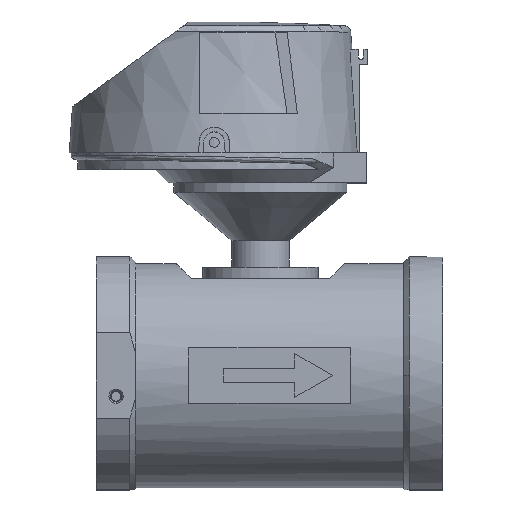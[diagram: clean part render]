
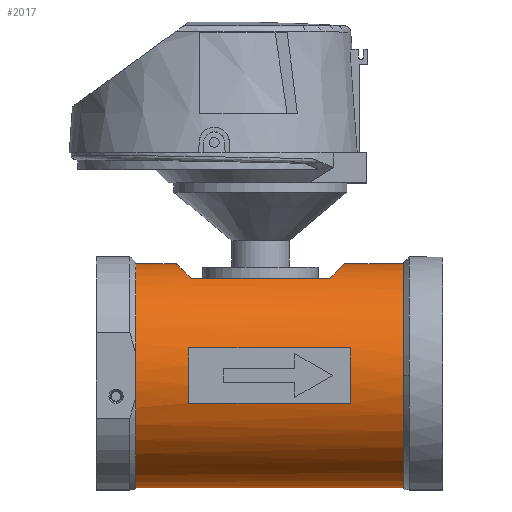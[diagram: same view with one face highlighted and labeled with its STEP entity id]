
A CAD part, top view. The second image highlights one B-rep face of the part: STEP entity #2017.
In plain terms, the highlighted cylindrical face has radius 48.5 mm (diameter 97 mm), a partial arc.
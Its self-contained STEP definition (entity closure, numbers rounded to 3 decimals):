
#570=CARTESIAN_POINT('',(110.,0.,0.));
#571=DIRECTION('',(-1.,0.,0.));
#572=DIRECTION('',(0.,-0.247,0.969));
#573=AXIS2_PLACEMENT_3D('',#570,#571,#572);
#575=DIRECTION('',(1.,0.,0.));
#576=VECTOR('',#575,70.);
#577=CARTESIAN_POINT('',(40.,11.969,47.));
#578=LINE('',#577,#576);
#579=CARTESIAN_POINT('',(40.,0.,0.));
#580=DIRECTION('',(1.,0.,0.));
#581=DIRECTION('',(0.,0.247,0.969));
#582=AXIS2_PLACEMENT_3D('',#579,#580,#581);
#584=DIRECTION('',(1.,0.,0.));
#585=VECTOR('',#584,70.);
#586=CARTESIAN_POINT('',(40.,-11.969,47.));
#587=LINE('',#586,#585);
#588=CARTESIAN_POINT('',(34.5,48.5,0.));
#589=CARTESIAN_POINT('',(34.5,48.5,4.588));
#590=CARTESIAN_POINT('',(35.763,47.237,13.129));
#591=CARTESIAN_POINT('',(38.948,44.052,20.7));
#592=CARTESIAN_POINT('',(41.,42.,24.254));
#594=DIRECTION('',(1.,0.,0.));
#595=VECTOR('',#594,60.);
#596=CARTESIAN_POINT('',(41.,42.,24.254));
#597=LINE('',#596,#595);
#598=CARTESIAN_POINT('',(107.5,48.5,0.));
#599=CARTESIAN_POINT('',(107.5,48.5,4.588));
#600=CARTESIAN_POINT('',(106.237,47.237,13.129));
#601=CARTESIAN_POINT('',(103.052,44.052,20.7));
#602=CARTESIAN_POINT('',(101.,42.,24.254));
#604=CARTESIAN_POINT('',(133.,0.,0.));
#605=DIRECTION('',(1.,0.,0.));
#606=DIRECTION('',(0.,1.,0.));
#607=AXIS2_PLACEMENT_3D('',#604,#605,#606);
#609=CARTESIAN_POINT('',(17.,0.,0.));
#610=DIRECTION('',(1.,0.,0.));
#611=DIRECTION('',(0.,0.134,0.991));
#612=AXIS2_PLACEMENT_3D('',#609,#610,#611);
#710=CARTESIAN_POINT('',(17.,0.,0.));
#711=DIRECTION('',(1.,0.,0.));
#712=DIRECTION('',(0.,-0.134,0.991));
#713=AXIS2_PLACEMENT_3D('',#710,#711,#712);
#720=CARTESIAN_POINT('',(17.,0.,0.));
#721=DIRECTION('',(1.,0.,0.));
#722=DIRECTION('',(0.,1.,0.));
#723=AXIS2_PLACEMENT_3D('',#720,#721,#722);
#904=DIRECTION('',(-1.,0.,0.));
#905=VECTOR('',#904,17.5);
#906=CARTESIAN_POINT('',(34.5,48.5,0.));
#907=LINE('',#906,#905);
#908=DIRECTION('',(-1.,0.,0.));
#909=VECTOR('',#908,116.);
#910=CARTESIAN_POINT('',(133.,-48.5,0.));
#911=LINE('',#910,#909);
#917=DIRECTION('',(-1.,0.,0.));
#918=VECTOR('',#917,25.5);
#919=CARTESIAN_POINT('',(133.,48.5,0.));
#920=LINE('',#919,#918);
#1248=CARTESIAN_POINT('',(133.,-48.5,0.));
#1249=CARTESIAN_POINT('',(17.,-48.5,0.));
#1250=VERTEX_POINT('',#1248);
#1251=VERTEX_POINT('',#1249);
#1252=CARTESIAN_POINT('',(133.,48.5,0.));
#1253=VERTEX_POINT('',#1252);
#1254=CARTESIAN_POINT('',(17.,48.5,0.));
#1255=VERTEX_POINT('',#1254);
#1270=VERTEX_POINT('',#588);
#1271=VERTEX_POINT('',#592);
#1272=CARTESIAN_POINT('',(101.,42.,24.254));
#1273=VERTEX_POINT('',#1272);
#1274=VERTEX_POINT('',#598);
#1298=CARTESIAN_POINT('',(110.,-11.969,47.));
#1299=CARTESIAN_POINT('',(110.,11.969,47.));
#1300=VERTEX_POINT('',#1298);
#1301=VERTEX_POINT('',#1299);
#1302=CARTESIAN_POINT('',(40.,11.969,47.));
#1303=VERTEX_POINT('',#1302);
#1304=CARTESIAN_POINT('',(40.,-11.969,47.));
#1305=VERTEX_POINT('',#1304);
#1418=CARTESIAN_POINT('',(17.,6.5,48.062));
#1419=VERTEX_POINT('',#1418);
#1420=CARTESIAN_POINT('',(17.,-6.5,48.062));
#1421=VERTEX_POINT('',#1420);
#1981=CARTESIAN_POINT('',(-7.5,0.,0.));
#1982=DIRECTION('',(1.,0.,0.));
#1983=DIRECTION('',(0.,-1.,0.));
#1984=AXIS2_PLACEMENT_3D('',#1981,#1982,#1983);
#1985=CYLINDRICAL_SURFACE('',#1984,48.5);
#1987=ORIENTED_EDGE('',*,*,#1986,.F.);
#1989=ORIENTED_EDGE('',*,*,#1988,.F.);
#1991=ORIENTED_EDGE('',*,*,#1990,.T.);
#1992=ORIENTED_EDGE('',*,*,#1929,.T.);
#1994=ORIENTED_EDGE('',*,*,#1993,.F.);
#1996=ORIENTED_EDGE('',*,*,#1995,.F.);
#1998=ORIENTED_EDGE('',*,*,#1997,.T.);
#2000=ORIENTED_EDGE('',*,*,#1999,.T.);
#2002=ORIENTED_EDGE('',*,*,#2001,.F.);
#2004=ORIENTED_EDGE('',*,*,#2003,.F.);
#2005=EDGE_LOOP('',(#1987,#1989,#1991,#1992,#1994,#1996,#1998,#2000,#2002,
#2004));
#2006=FACE_OUTER_BOUND('',#2005,.F.);
#2008=ORIENTED_EDGE('',*,*,#2007,.T.);
#2010=ORIENTED_EDGE('',*,*,#2009,.F.);
#2012=ORIENTED_EDGE('',*,*,#2011,.T.);
#2014=ORIENTED_EDGE('',*,*,#2013,.T.);
#2015=EDGE_LOOP('',(#2008,#2010,#2012,#2014));
#2016=FACE_BOUND('',#2015,.F.);
#574=CIRCLE('',#573,48.5);
#583=CIRCLE('',#582,48.5);
#593=B_SPLINE_CURVE_WITH_KNOTS('',3,(#588,#589,#590,#591,#592),.UNSPECIFIED.,
.F.,.F.,(4,1,4),(0.,0.5,1.),.UNSPECIFIED.);
#603=B_SPLINE_CURVE_WITH_KNOTS('',3,(#598,#599,#600,#601,#602),.UNSPECIFIED.,
.F.,.F.,(4,1,4),(0.,0.5,1.),.UNSPECIFIED.);
#608=CIRCLE('',#607,48.5);
#613=CIRCLE('',#612,48.5);
#714=CIRCLE('',#713,48.5);
#724=CIRCLE('',#723,48.5);
#1929=EDGE_CURVE('',#1271,#1273,#597,.T.);
#1986=EDGE_CURVE('',#1255,#1419,#724,.T.);
#1988=EDGE_CURVE('',#1270,#1255,#907,.T.);
#1990=EDGE_CURVE('',#1270,#1271,#593,.T.);
#1993=EDGE_CURVE('',#1274,#1273,#603,.T.);
#1995=EDGE_CURVE('',#1253,#1274,#920,.T.);
#1997=EDGE_CURVE('',#1253,#1250,#608,.T.);
#1999=EDGE_CURVE('',#1250,#1251,#911,.T.);
#2001=EDGE_CURVE('',#1421,#1251,#714,.T.);
#2003=EDGE_CURVE('',#1419,#1421,#613,.T.);
#2007=EDGE_CURVE('',#1300,#1301,#574,.T.);
#2009=EDGE_CURVE('',#1303,#1301,#578,.T.);
#2011=EDGE_CURVE('',#1303,#1305,#583,.T.);
#2013=EDGE_CURVE('',#1305,#1300,#587,.T.);
#2017=ADVANCED_FACE('',(#2006,#2016),#1985,.T.);
